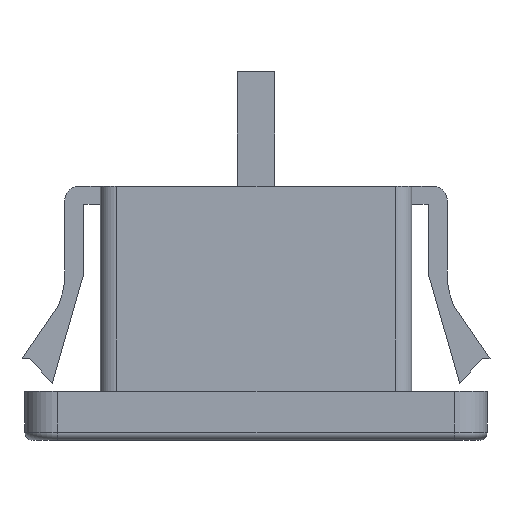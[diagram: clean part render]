
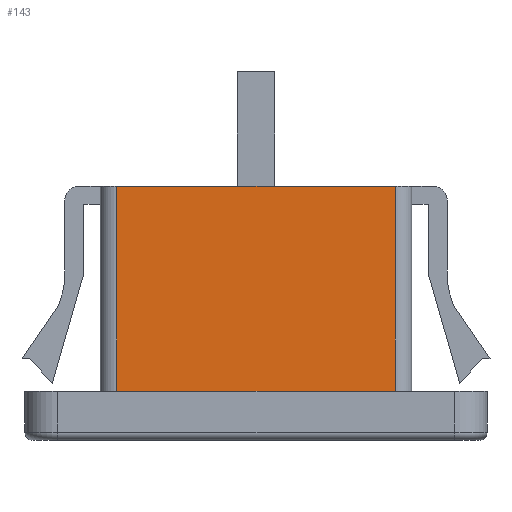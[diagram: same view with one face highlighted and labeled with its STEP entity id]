
A CAD part, front view. The second image highlights one B-rep face of the part: STEP entity #143.
In plain terms, the highlighted planar face has unit normal (0, -1, 0).
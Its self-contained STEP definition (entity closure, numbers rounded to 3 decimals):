
#81 = VECTOR ( 'NONE', #2614, 1000. ) ;
#103 = DIRECTION ( 'NONE',  ( 1., 0., 0. ) ) ;
#143 = ADVANCED_FACE ( 'NONE', ( #1862 ), #444, .F. ) ;
#214 = LINE ( 'NONE', #3114, #2021 ) ;
#272 = VECTOR ( 'NONE', #2576, 1000. ) ;
#297 = EDGE_CURVE ( 'NONE', #597, #685, #1157, .T. ) ;
#356 = EDGE_CURVE ( 'NONE', #2574, #2668, #3168, .T. ) ;
#421 = EDGE_LOOP ( 'NONE', ( #701, #812, #2891, #1870 ) ) ;
#444 = PLANE ( 'NONE',  #2492 ) ;
#465 = CARTESIAN_POINT ( 'NONE',  ( -8.5, -6., 0. ) ) ;
#597 = VERTEX_POINT ( 'NONE', #2697 ) ;
#685 = VERTEX_POINT ( 'NONE', #2875 ) ;
#701 = ORIENTED_EDGE ( 'NONE', *, *, #297, .T. ) ;
#812 = ORIENTED_EDGE ( 'NONE', *, *, #970, .F. ) ;
#849 = CARTESIAN_POINT ( 'NONE',  ( -8.5, -6., 12.5 ) ) ;
#887 = CARTESIAN_POINT ( 'NONE',  ( 8.5, -6., 12.5 ) ) ;
#970 = EDGE_CURVE ( 'NONE', #2668, #685, #3195, .T. ) ;
#996 = VECTOR ( 'NONE', #103, 1000. ) ;
#1157 = LINE ( 'NONE', #465, #996 ) ;
#1862 = FACE_OUTER_BOUND ( 'NONE', #421, .T. ) ;
#1870 = ORIENTED_EDGE ( 'NONE', *, *, #2139, .T. ) ;
#1912 = DIRECTION ( 'NONE',  ( 0., 0., 1. ) ) ;
#2021 = VECTOR ( 'NONE', #2829, 1000. ) ;
#2139 = EDGE_CURVE ( 'NONE', #2574, #597, #214, .T. ) ;
#2223 = DIRECTION ( 'NONE',  ( 0., 1., 0. ) ) ;
#2492 = AXIS2_PLACEMENT_3D ( 'NONE', #2538, #2223, #1912 ) ;
#2538 = CARTESIAN_POINT ( 'NONE',  ( -8.5, -6., 12.5 ) ) ;
#2574 = VERTEX_POINT ( 'NONE', #849 ) ;
#2576 = DIRECTION ( 'NONE',  ( 1., 0., 0. ) ) ;
#2614 = DIRECTION ( 'NONE',  ( 0., 0., -1. ) ) ;
#2668 = VERTEX_POINT ( 'NONE', #887 ) ;
#2697 = CARTESIAN_POINT ( 'NONE',  ( -8.5, -6., 0. ) ) ;
#2829 = DIRECTION ( 'NONE',  ( 0., 0., -1. ) ) ;
#2875 = CARTESIAN_POINT ( 'NONE',  ( 8.5, -6., 0. ) ) ;
#2891 = ORIENTED_EDGE ( 'NONE', *, *, #356, .F. ) ;
#2893 = CARTESIAN_POINT ( 'NONE',  ( -8.5, -6., 12.5 ) ) ;
#2924 = CARTESIAN_POINT ( 'NONE',  ( 8.5, -6., 12.5 ) ) ;
#3114 = CARTESIAN_POINT ( 'NONE',  ( -8.5, -6., 12.5 ) ) ;
#3168 = LINE ( 'NONE', #2893, #272 ) ;
#3195 = LINE ( 'NONE', #2924, #81 ) ;
